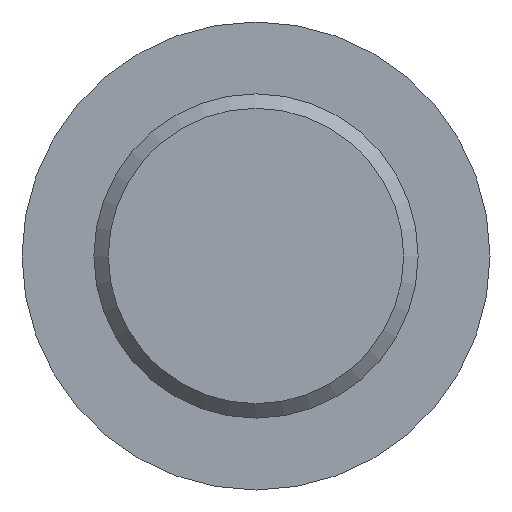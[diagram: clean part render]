
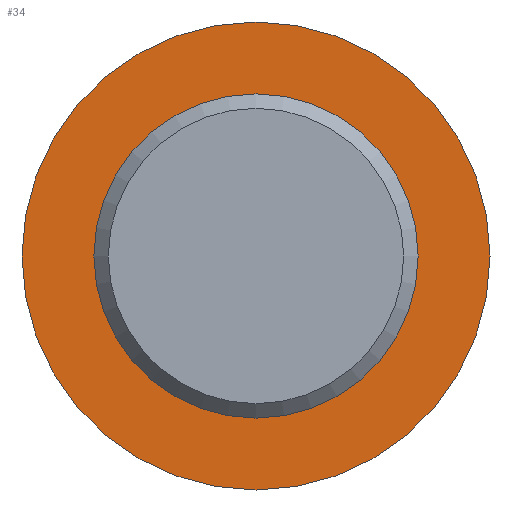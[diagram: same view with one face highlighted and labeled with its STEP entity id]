
A CAD part, front view. The second image highlights one B-rep face of the part: STEP entity #34.
In plain terms, the highlighted planar face has unit normal (0, -1, 0).
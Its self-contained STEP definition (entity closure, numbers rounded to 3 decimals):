
#34 = ADVANCED_FACE( '', ( #71, #72 ), #73, .F. );
#71 = FACE_BOUND( '', #114, .T. );
#72 = FACE_OUTER_BOUND( '', #115, .T. );
#73 = PLANE( '', #116 );
#114 = EDGE_LOOP( '', ( #185 ) );
#115 = EDGE_LOOP( '', ( #186 ) );
#116 = AXIS2_PLACEMENT_3D( '', #187, #188, #189 );
#185 = ORIENTED_EDGE( '', *, *, #246, .F. );
#186 = ORIENTED_EDGE( '', *, *, #247, .T. );
#187 = CARTESIAN_POINT( '', ( 24., 18., 0. ) );
#188 = DIRECTION( '', ( 0., 1., 0. ) );
#189 = DIRECTION( '', ( 0., 0., 1. ) );
#246 = EDGE_CURVE( '', #268, #268, #269, .T. );
#247 = EDGE_CURVE( '', #270, #270, #271, .T. );
#268 = VERTEX_POINT( '', #300 );
#269 = CIRCLE( '', #301, 16.625 );
#270 = VERTEX_POINT( '', #302 );
#271 = CIRCLE( '', #303, 24. );
#300 = CARTESIAN_POINT( '', ( 0., 18., -16.625 ) );
#301 = AXIS2_PLACEMENT_3D( '', #363, #364, #365 );
#302 = CARTESIAN_POINT( '', ( 0., 18., -24. ) );
#303 = AXIS2_PLACEMENT_3D( '', #366, #367, #368 );
#363 = CARTESIAN_POINT( '', ( 0., 18., 0. ) );
#364 = DIRECTION( '', ( 0., -1., 0. ) );
#365 = DIRECTION( '', ( 0., 0., -1. ) );
#366 = CARTESIAN_POINT( '', ( 0., 18., 0. ) );
#367 = DIRECTION( '', ( 0., -1., 0. ) );
#368 = DIRECTION( '', ( 0., 0., -1. ) );
